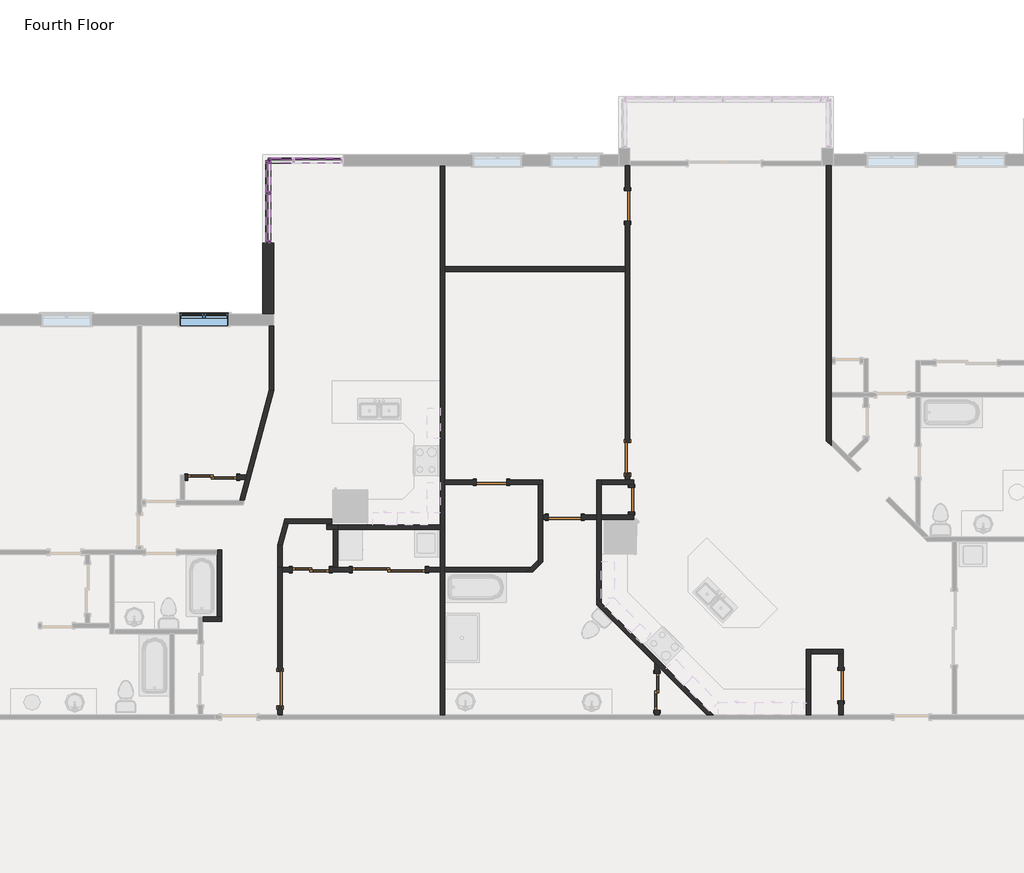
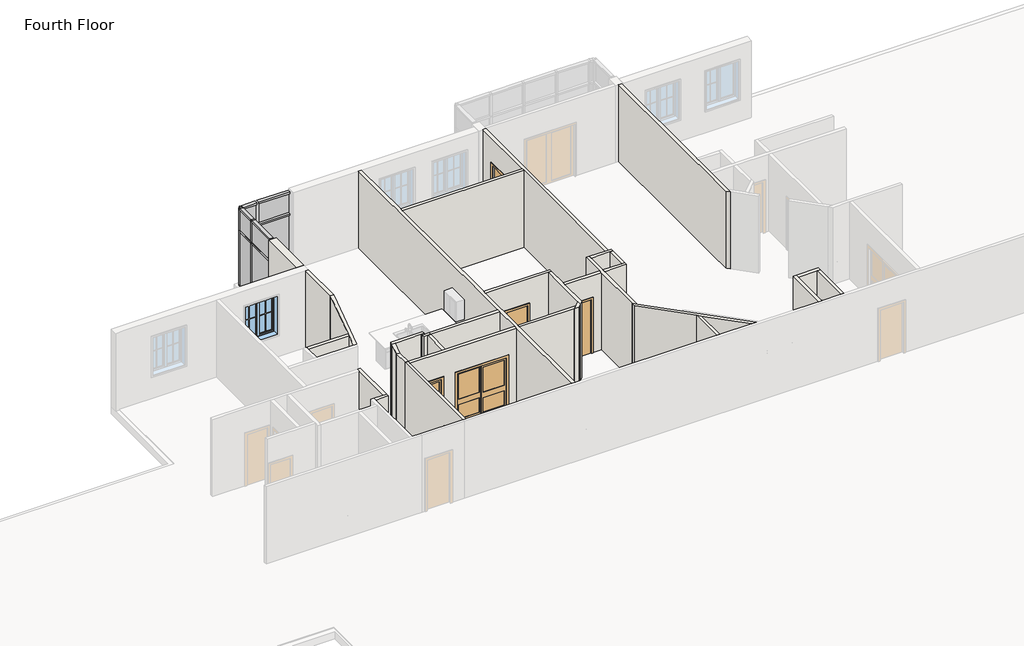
# One storey, part 9 of 17: 32 walls, 19 members, 11 doors, 8 plates, 1 window.
"""IFC4 building model written with IfcOpenShell, lengths in millimetres."""

from ifc_helpers import new_model, si_unit, frame, origin, place, context, project, spatial, polyline, outline, extrude, faceted_brep, transform, mapped, element, save
from components import door_e2285e44, door_d8f5dbb5, door_f2b275c1, door_d141acb4, door_c29894e6, door_88c23cd7, door_900f836f, door_caaf2a11, rectangular_mullion_rectangular_mullion_1_fa3625a1, rectangular_mullion_rectangular_mullion_1_7cbf0b94, rectangular_mullion_rectangular_mullion_1_a50b3cda, rectangular_mullion_rectangular_mullion_1_5cd4c5ac, rectangular_mullion_rectangular_mullion_1_6186cc23, rectangular_mullion_rectangular_mullion_1_049a2e78, rectangular_mullion_rectangular_mullion_1_13524bf9, rectangular_mullion_rectangular_mullion_1_a1888574, rectangular_mullion_rectangular_mullion_1_55d4f6ce, rectangular_mullion_rectangular_mullion_1_d8cc73e0, system_panel_glazed_0ed27d1d, system_panel_glazed_134bacdb, system_panel_glazed_53e6f9fb, system_panel_glazed_cb820e14, system_panel_glazed_7c98c5cb, system_panel_glazed_dc3c0d95, system_panel_glazed_bae44e10, system_panel_glazed_9feb64c3, window_33528cc2

model = new_model("IFC4")

# Units and contexts
model_context = context("Model", 3, world=origin())
ifc_project = project(units=[si_unit("LENGTHUNIT", "METRE", prefix="MILLI")], contexts=[model_context])

# Site, building, storey
site = spatial("IfcSite", under=ifc_project)
building = spatial("IfcBuilding", under=site)
storey = spatial("IfcBuildingStorey", under=building, Name="Fourth Floor", Elevation=9144.0)

# Doors
placement = place(None, origin())
door_shape = door_e2285e44(model_context)
element("IfcDoor", 1, ObjectType="Single-Flush : 24\" x 80\"", at=placement, inside=storey, context=model_context, shape_type="MappedRepresentation", body=[
    mapped(door_shape, transform((26745.480585, 7734.3572102, 9144.0), x_axis=(0.0, 1.0, 0.0), y_axis=(-1.0, 0.0, 0.0), z_axis=(0.0, 0.0, 1.0))),
])
door_2_shape = door_d8f5dbb5(model_context)
element("IfcDoor", 2, ObjectType="Single-Flush : 30\" x 80\"", at=placement, inside=storey, context=model_context, shape_type="MappedRepresentation", body=[
    mapped(door_2_shape, transform((23246.1202044, 8168.006996, 9144.0), x_axis=(-1.0, 0.0, 0.0), y_axis=(0.0, -1.0, 0.0), z_axis=(0.0, 0.0, 1.0))),
])
element("IfcDoor", 3, ObjectType="Single-Flush : 30\" x 80\"", at=placement, inside=storey, context=model_context, shape_type="MappedRepresentation", body=[
    mapped(door_2_shape, transform((31977.0076897, 3089.6091714, 9144.0), x_axis=(0.0, -1.0, 0.0), y_axis=(1.0, 0.0, 0.0), z_axis=(0.0, 0.0, 1.0))),
])
door_3_shape = door_f2b275c1(model_context)
element("IfcDoor", 4, ObjectType="Single-Flush : 30\" x 80\"", at=placement, inside=storey, context=model_context, shape_type="MappedRepresentation", body=[
    mapped(door_3_shape, transform((26645.8573571, 8777.606996, 9144.0), x_axis=(0.0, -1.0, 0.0), y_axis=(1.0, 0.0, 0.0), z_axis=(0.0, 0.0, 1.0))),
])
element("IfcDoor", 5, ObjectType="Single-Flush : 30\" x 80\"", at=placement, inside=storey, context=model_context, shape_type="MappedRepresentation", body=[
    mapped(door_3_shape, transform((26645.8573571, 15067.4365339, 9144.0), x_axis=(0.0, 1.0, 0.0), y_axis=(-1.0, 0.0, 0.0), z_axis=(0.0, 0.0, 1.0))),
])
door_4_shape = door_d141acb4(model_context)
element("IfcDoor", 6, ObjectType="Single-Flush : 32\" x 84\"", at=placement, inside=storey, context=model_context, shape_type="MappedRepresentation", body=[
    mapped(door_4_shape, transform((25078.7830518, 7300.7074244, 9144.0), x_axis=(-1.0, 0.0, 0.0), y_axis=(0.0, -1.0, 0.0), z_axis=(0.0, 0.0, 1.0))),
])
door_5_shape = door_c29894e6(model_context)
element("IfcDoor", 7, ObjectType="Single-Flush : 34\" x 80\"", at=placement, inside=storey, context=model_context, shape_type="MappedRepresentation", body=[
    mapped(door_5_shape, transform((17970.6993195, 3013.4091714, 9144.0), x_axis=(0.0, -1.0, 0.0), y_axis=(1.0, 0.0, 0.0), z_axis=(0.0, 0.0, 1.0))),
])
door_6_shape = door_88c23cd7(model_context)
element("IfcDoor", 8, ObjectType="Sliding-Closet : 36\" x 80\"", at=placement, inside=storey, context=model_context, shape_type="MappedRepresentation", body=[
    mapped(door_6_shape, transform((18737.6267988, 6113.0380642, 9144.0), x_axis=(-1.0, 0.0, 0.0), y_axis=(0.0, -1.0, 0.0), z_axis=(0.0, 0.0, 1.0))),
])
element("IfcDoor", 9, ObjectType="Sliding-Closet : 36\" x 80\"", at=placement, inside=storey, context=model_context, shape_type="MappedRepresentation", body=[
    mapped(door_6_shape, transform((27511.15388, 2937.2091714, 9144.0), x_axis=(0.0, 1.0, 0.0), y_axis=(-1.0, 0.0, 0.0), z_axis=(0.0, 0.0, 1.0))),
])
door_7_shape = door_900f836f(model_context)
element("IfcDoor", 10, ObjectType="Sliding-Closet : 48\" x 80\"", at=placement, inside=storey, context=model_context, shape_type="MappedRepresentation", body=[
    mapped(door_7_shape, transform((16278.4083594, 8170.5576127, 9144.0), x_axis=(1.0, 0.0, 0.0), y_axis=(0.0, 1.0, 0.0), z_axis=(0.0, 0.0, 1.0))),
])
door_8_shape = door_caaf2a11(model_context)
element("IfcDoor", 11, ObjectType="Sliding-Closet : 72\" x 80\"", at=placement, inside=storey, context=model_context, shape_type="MappedRepresentation", body=[
    mapped(door_8_shape, transform((20687.6058176, 6113.0380642, 9144.0), x_axis=(-1.0, 0.0, 0.0), y_axis=(0.0, -1.0, 0.0), z_axis=(0.0, 0.0, 1.0))),
])

# Members
rectangular_mullion_rectangular_mullion_1_shape = rectangular_mullion_rectangular_mullion_1_fa3625a1(model_context)
element("IfcMember", 12, ObjectType="Rectangular Mullion : Rectangular Mullion 1", at=placement, inside=storey, context=model_context, shape_type="MappedRepresentation", body=[
    mapped(rectangular_mullion_rectangular_mullion_1_shape, transform((18332.1198568, 16206.4791823, 12192.0), x_axis=(0.0, 0.0, 1.0), y_axis=(0.0, 1.0, 0.0), z_axis=(-1.0, 0.0, 0.0))),
])
rectangular_mullion_rectangular_mullion_1_2_shape = rectangular_mullion_rectangular_mullion_1_7cbf0b94(model_context)
element("IfcMember", 13, ObjectType="Rectangular Mullion : Rectangular Mullion 1", at=placement, inside=storey, context=model_context, shape_type="MappedRepresentation", body=[
    mapped(rectangular_mullion_rectangular_mullion_1_2_shape, transform((18332.1198568, 16206.4791823, 11309.35), x_axis=(0.0, 0.0, 1.0), y_axis=(0.0, 1.0, 0.0), z_axis=(-1.0, 0.0, 0.0))),
])
rectangular_mullion_rectangular_mullion_1_3_shape = rectangular_mullion_rectangular_mullion_1_a50b3cda(model_context)
element("IfcMember", 14, ObjectType="Rectangular Mullion : Rectangular Mullion 1", at=placement, inside=storey, context=model_context, shape_type="MappedRepresentation", body=[
    mapped(rectangular_mullion_rectangular_mullion_1_3_shape, transform((17678.8246608, 16206.4791823, 9144.0), x_axis=(-1.0, 0.0, 0.0), y_axis=(0.0, 1.0, 0.0), z_axis=(0.0, 0.0, -1.0))),
])
rectangular_mullion_rectangular_mullion_1_4_shape = rectangular_mullion_rectangular_mullion_1_5cd4c5ac(model_context)
element("IfcMember", 15, ObjectType="Rectangular Mullion : Rectangular Mullion 1", at=placement, inside=storey, context=model_context, shape_type="MappedRepresentation", body=[
    mapped(rectangular_mullion_rectangular_mullion_1_4_shape, transform((17678.8246608, 16206.4791823, 11309.35), x_axis=(-1.0, 0.0, 0.0), y_axis=(0.0, 1.0, 0.0), z_axis=(0.0, 0.0, -1.0))),
])
element("IfcMember", 16, ObjectType="Rectangular Mullion : Rectangular Mullion 1", at=placement, inside=storey, context=model_context, shape_type="MappedRepresentation", body=[
    mapped(rectangular_mullion_rectangular_mullion_1_shape, transform((17678.8246608, 15365.3662252, 12192.0), x_axis=(0.0, 0.0, 1.0), y_axis=(1.0, 0.0, 0.0), z_axis=(0.0, 1.0, 0.0))),
])
element("IfcMember", 17, ObjectType="Rectangular Mullion : Rectangular Mullion 1", at=placement, inside=storey, context=model_context, shape_type="MappedRepresentation", body=[
    mapped(rectangular_mullion_rectangular_mullion_1_shape, transform((17678.8246608, 14209.6662249, 9144.0), x_axis=(0.0, 0.0, -1.0), y_axis=(1.0, 0.0, 0.0), z_axis=(0.0, -1.0, 0.0))),
])
element("IfcMember", 18, ObjectType="Rectangular Mullion : Rectangular Mullion 1", at=placement, inside=storey, context=model_context, shape_type="MappedRepresentation", body=[
    mapped(rectangular_mullion_rectangular_mullion_1_3_shape, transform((17678.8246608, 16206.4791823, 9144.0), x_axis=(0.0, 1.0, 0.0), y_axis=(1.0, 0.0, 0.0), z_axis=(0.0, 0.0, -1.0))),
])
element("IfcMember", 19, ObjectType="Rectangular Mullion : Rectangular Mullion 1", at=placement, inside=storey, context=model_context, shape_type="MappedRepresentation", body=[
    mapped(rectangular_mullion_rectangular_mullion_1_4_shape, transform((17678.8246608, 16206.4791823, 11309.35), x_axis=(0.0, 1.0, 0.0), y_axis=(1.0, 0.0, 0.0), z_axis=(0.0, 0.0, -1.0))),
])
element("IfcMember", 20, ObjectType="Rectangular Mullion : Rectangular Mullion 1", at=placement, inside=storey, context=model_context, shape_type="MappedRepresentation", body=[
    mapped(rectangular_mullion_rectangular_mullion_1_4_shape, transform((17678.8246608, 14146.1662249, 12192.0), x_axis=(0.0, -1.0, 0.0), y_axis=(1.0, 0.0, 0.0), z_axis=(0.0, 0.0, 1.0))),
])
element("IfcMember", 21, ObjectType="Rectangular Mullion : Rectangular Mullion 1", at=placement, inside=storey, context=model_context, shape_type="MappedRepresentation", body=[
    mapped(rectangular_mullion_rectangular_mullion_1_3_shape, transform((17678.8246608, 14146.1662249, 11309.35), x_axis=(0.0, -1.0, 0.0), y_axis=(1.0, 0.0, 0.0), z_axis=(0.0, 0.0, 1.0))),
])
element("IfcMember", 22, ObjectType="Rectangular Mullion : Rectangular Mullion 1", at=placement, inside=storey, context=model_context, shape_type="MappedRepresentation", body=[
    mapped(rectangular_mullion_rectangular_mullion_1_2_shape, transform((17678.8246608, 15365.3662252, 11309.35), x_axis=(0.0, 0.0, 1.0), y_axis=(1.0, 0.0, 0.0), z_axis=(0.0, 1.0, 0.0))),
])
rectangular_mullion_rectangular_mullion_1_5_shape = rectangular_mullion_rectangular_mullion_1_6186cc23(model_context)
element("IfcMember", 23, ObjectType="Rectangular Mullion : Rectangular Mullion 1", at=placement, inside=storey, context=model_context, shape_type="MappedRepresentation", body=[
    mapped(rectangular_mullion_rectangular_mullion_1_5_shape, transform((17678.8246608, 15397.1162252, 9144.0), x_axis=(0.0, 1.0, 0.0), y_axis=(1.0, 0.0, 0.0), z_axis=(0.0, 0.0, -1.0))),
])
rectangular_mullion_rectangular_mullion_1_6_shape = rectangular_mullion_rectangular_mullion_1_049a2e78(model_context)
element("IfcMember", 24, ObjectType="Rectangular Mullion : Rectangular Mullion 1", at=placement, inside=storey, context=model_context, shape_type="MappedRepresentation", body=[
    mapped(rectangular_mullion_rectangular_mullion_1_6_shape, transform((17678.8246608, 15397.1162252, 11309.35), x_axis=(0.0, 1.0, 0.0), y_axis=(1.0, 0.0, 0.0), z_axis=(0.0, 0.0, -1.0))),
])
rectangular_mullion_rectangular_mullion_1_7_shape = rectangular_mullion_rectangular_mullion_1_13524bf9(model_context)
element("IfcMember", 25, ObjectType="Rectangular Mullion : Rectangular Mullion 1", at=placement, inside=storey, context=model_context, shape_type="MappedRepresentation", body=[
    mapped(rectangular_mullion_rectangular_mullion_1_7_shape, transform((17678.8246608, 16142.9791823, 12192.0), x_axis=(0.0, 0.0, 1.0), y_axis=(1.0, 0.0, 0.0), z_axis=(0.0, 1.0, 0.0))),
])
element("IfcMember", 26, ObjectType="Rectangular Mullion : Rectangular Mullion 1", at=placement, inside=storey, context=model_context, shape_type="MappedRepresentation", body=[
    mapped(rectangular_mullion_rectangular_mullion_1_7_shape, transform((17678.8246608, 15428.8662252, 9144.0), x_axis=(0.0, 0.0, -1.0), y_axis=(1.0, 0.0, 0.0), z_axis=(0.0, -1.0, 0.0))),
])
rectangular_mullion_rectangular_mullion_1_8_shape = rectangular_mullion_rectangular_mullion_1_a1888574(model_context)
element("IfcMember", 27, ObjectType="Rectangular Mullion : Rectangular Mullion 1", at=placement, inside=storey, context=model_context, shape_type="MappedRepresentation", body=[
    mapped(rectangular_mullion_rectangular_mullion_1_8_shape, transform((17678.8246608, 16142.9791823, 11309.35), x_axis=(0.0, 0.0, 1.0), y_axis=(1.0, 0.0, 0.0), z_axis=(0.0, 1.0, 0.0))),
])
rectangular_mullion_rectangular_mullion_1_9_shape = rectangular_mullion_rectangular_mullion_1_55d4f6ce(model_context)
element("IfcMember", 28, ObjectType="Rectangular Mullion : Rectangular Mullion 1", at=placement, inside=storey, context=model_context, shape_type="MappedRepresentation", body=[
    mapped(rectangular_mullion_rectangular_mullion_1_9_shape, transform((17742.3246608, 16206.4791823, 12192.0), x_axis=(0.0, 0.0, 1.0), y_axis=(0.0, 1.0, 0.0), z_axis=(-1.0, 0.0, 0.0))),
])
element("IfcMember", 29, ObjectType="Rectangular Mullion : Rectangular Mullion 1", at=placement, inside=storey, context=model_context, shape_type="MappedRepresentation", body=[
    mapped(rectangular_mullion_rectangular_mullion_1_9_shape, transform((18268.6198568, 16206.4791823, 9144.0), x_axis=(0.0, 0.0, -1.0), y_axis=(0.0, 1.0, 0.0), z_axis=(1.0, 0.0, 0.0))),
])
rectangular_mullion_rectangular_mullion_1_10_shape = rectangular_mullion_rectangular_mullion_1_d8cc73e0(model_context)
element("IfcMember", 30, ObjectType="Rectangular Mullion : Rectangular Mullion 1", at=placement, inside=storey, context=model_context, shape_type="MappedRepresentation", body=[
    mapped(rectangular_mullion_rectangular_mullion_1_10_shape, transform((17742.3246608, 16206.4791823, 11309.35), x_axis=(0.0, 0.0, 1.0), y_axis=(0.0, 1.0, 0.0), z_axis=(-1.0, 0.0, 0.0))),
])

# Plates
system_panel_glazed_shape = system_panel_glazed_0ed27d1d(model_context)
element("IfcPlate", 31, ObjectType="System Panel : Glazed", at=placement, inside=storey, context=model_context, shape_type="MappedRepresentation", body=[
    mapped(system_panel_glazed_shape, transform((18909.969857, 16206.4791823, 9207.5), x_axis=(-1.0, 0.0, 0.0), y_axis=(0.0, -1.0, 0.0), z_axis=(0.0, 0.0, 1.0))),
])
system_panel_glazed_2_shape = system_panel_glazed_134bacdb(model_context)
element("IfcPlate", 32, ObjectType="System Panel : Glazed", at=placement, inside=storey, context=model_context, shape_type="MappedRepresentation", body=[
    mapped(system_panel_glazed_2_shape, transform((18909.969857, 16206.4791823, 11341.1), x_axis=(-1.0, 0.0, 0.0), y_axis=(0.0, -1.0, 0.0), z_axis=(0.0, 0.0, 1.0))),
])
system_panel_glazed_3_shape = system_panel_glazed_53e6f9fb(model_context)
element("IfcPlate", 33, ObjectType="System Panel : Glazed", at=placement, inside=storey, context=model_context, shape_type="MappedRepresentation", body=[
    mapped(system_panel_glazed_3_shape, transform((17678.8246608, 14787.5162251, 9207.5), x_axis=(0.0, 1.0, 0.0), y_axis=(-1.0, 0.0, 0.0), z_axis=(0.0, 0.0, 1.0))),
])
system_panel_glazed_4_shape = system_panel_glazed_cb820e14(model_context)
element("IfcPlate", 34, ObjectType="System Panel : Glazed", at=placement, inside=storey, context=model_context, shape_type="MappedRepresentation", body=[
    mapped(system_panel_glazed_4_shape, transform((17678.8246608, 14787.5162251, 11341.1), x_axis=(0.0, 1.0, 0.0), y_axis=(-1.0, 0.0, 0.0), z_axis=(0.0, 0.0, 1.0))),
])
system_panel_glazed_5_shape = system_panel_glazed_7c98c5cb(model_context)
element("IfcPlate", 35, ObjectType="System Panel : Glazed", at=placement, inside=storey, context=model_context, shape_type="MappedRepresentation", body=[
    mapped(system_panel_glazed_5_shape, transform((17678.8246608, 15785.9227038, 9207.5), x_axis=(0.0, 1.0, 0.0), y_axis=(-1.0, 0.0, 0.0), z_axis=(0.0, 0.0, 1.0))),
])
system_panel_glazed_6_shape = system_panel_glazed_dc3c0d95(model_context)
element("IfcPlate", 36, ObjectType="System Panel : Glazed", at=placement, inside=storey, context=model_context, shape_type="MappedRepresentation", body=[
    mapped(system_panel_glazed_6_shape, transform((17678.8246608, 15785.9227038, 11341.1), x_axis=(0.0, 1.0, 0.0), y_axis=(-1.0, 0.0, 0.0), z_axis=(0.0, 0.0, 1.0))),
])
system_panel_glazed_7_shape = system_panel_glazed_bae44e10(model_context)
element("IfcPlate", 37, ObjectType="System Panel : Glazed", at=placement, inside=storey, context=model_context, shape_type="MappedRepresentation", body=[
    mapped(system_panel_glazed_7_shape, transform((18005.4722588, 16206.4791823, 9207.5), x_axis=(-1.0, 0.0, 0.0), y_axis=(0.0, -1.0, 0.0), z_axis=(0.0, 0.0, 1.0))),
])
system_panel_glazed_8_shape = system_panel_glazed_9feb64c3(model_context)
element("IfcPlate", 38, ObjectType="System Panel : Glazed", at=placement, inside=storey, context=model_context, shape_type="MappedRepresentation", body=[
    mapped(system_panel_glazed_8_shape, transform((18005.4722588, 16206.4791823, 11341.1), x_axis=(-1.0, 0.0, 0.0), y_axis=(0.0, -1.0, 0.0), z_axis=(0.0, 0.0, 1.0))),
])

# Walls
element("IfcWall", 39, ObjectType="Exterior - Brick on Wood Stud", at=placement, inside=storey, context=model_context, shape_type="SweptSolid", body=[
    extrude(outline(polyline([(17537.5371608, 12370.2302849), (17537.5371608, 14146.1662249), (17820.1121608, 14146.1662249), (17820.1121608, 12370.2302849), (17537.5371608, 12370.2302849)])), frame((0.0, 0.0, 9144.0), z_axis=(0.0, 0.0, 1.0), x_axis=(1.0, 0.0, 0.0)), (0.0, 0.0, 1.0), 3048.0),
])
element("IfcWall", 40, ObjectType="Interior - 4 1/2\" Partition", at=placement, inside=storey, context=model_context, shape_type="Brep", body=[
    faceted_brep([(22080.2073571, 2359.3591714, 9144.0), (22080.2073571, 5928.8880642, 9144.0), (22080.2073571, 6043.1880642, 9144.0), (22080.2073571, 8110.856996, 9144.0), (22080.2073571, 8225.156996, 9144.0), (22080.2073571, 13435.7238431, 9144.0), (22080.2073571, 13550.0238431, 9144.0), (22080.2073571, 16065.1916823, 9144.0), (22080.2073571, 16065.1916823, 12192.0), (22080.2073571, 13550.0238431, 12192.0), (22080.2073571, 13435.7238431, 12192.0), (22080.2073571, 8225.156996, 12192.0), (22080.2073571, 8110.856996, 12192.0), (22080.2073571, 6043.1880642, 12192.0), (22080.2073571, 5928.8880642, 12192.0), (22080.2073571, 2359.3591714, 12192.0), (21965.9073571, 2359.3591714, 9144.0), (21965.9073571, 2359.3591714, 12192.0), (21965.9073571, 5928.8880642, 12192.0), (21965.9073571, 6043.1880642, 12192.0), (21965.9073571, 6988.905075, 12192.0), (21965.9073571, 7103.205075, 12192.0), (21965.9073571, 16065.1916823, 12192.0), (21965.9073571, 16065.1916823, 9144.0), (21965.9073571, 7103.205075, 9144.0), (21965.9073571, 6988.905075, 9144.0), (21965.9073571, 6043.1880642, 9144.0), (21965.9073571, 5928.8880642, 9144.0)], [[[0, 1, 2, 3, 4, 5, 6, 7, 8, 9, 10, 11, 12, 13, 14, 15]], [[16, 17, 18, 19, 20, 21, 22, 23, 24, 25, 26, 27]], [[7, 6, 5, 4, 3, 2, 1, 0, 16, 27, 26, 25, 24, 23]], [[15, 14, 13, 12, 11, 10, 9, 8, 22, 21, 20, 19, 18, 17]], [[0, 15, 17, 16]], [[8, 7, 23, 22]]]),
])
element("IfcWall", 41, ObjectType="Interior - 4 1/2\" Partition", at=placement, inside=storey, context=model_context, shape_type="Brep", body=[
    faceted_brep([(31724.597822, 9089.3944324, 9144.0), (31724.597822, 9251.0390425, 9144.0), (31724.597822, 10300.8410099, 9144.0), (31724.597822, 10415.1410099, 9144.0), (31724.597822, 11149.7238431, 9144.0), (31724.597822, 11264.0238431, 9144.0), (31724.597822, 16077.0865339, 9144.0), (31724.597822, 16077.0865339, 12192.0), (31724.597822, 11264.0238431, 12192.0), (31724.597822, 11149.7238431, 12192.0), (31724.597822, 10415.1410099, 12192.0), (31724.597822, 10300.8410099, 12192.0), (31724.597822, 9251.0390425, 12192.0), (31724.597822, 9089.3944324, 12192.0), (31610.297822, 9203.6944324, 9144.0), (31610.297822, 9203.6944324, 12192.0), (31610.297822, 16077.0865339, 12192.0), (31610.297822, 16077.0865339, 9144.0)], [[[0, 1, 2, 3, 4, 5, 6, 7, 8, 9, 10, 11, 12, 13]], [[14, 15, 16, 17]], [[6, 5, 4, 3, 2, 1, 0, 14, 17]], [[13, 12, 11, 10, 9, 8, 7, 16, 15]], [[0, 13, 15, 14]], [[7, 6, 17, 16]]]),
])
element("IfcWall", 42, ObjectType="Interior - 4 1/2\" Partition", at=placement, inside=storey, context=model_context, shape_type="SweptSolid", body=[
    extrude(outline(polyline([(26588.7073571, 13435.7238431), (22080.2073571, 13435.7238431), (22080.2073571, 13550.0238431), (26588.7073571, 13550.0238431), (26588.7073571, 13435.7238431)])), frame((0.0, 0.0, 9144.0), z_axis=(0.0, 0.0, 1.0), x_axis=(1.0, 0.0, 0.0)), (0.0, 0.0, 1.0), 3048.0),
])
element("IfcWall", 43, ObjectType="Interior - 4 1/2\" Partition", at=placement, inside=storey, context=model_context, shape_type="Brep", body=[
    faceted_brep([(26703.0073571, 15448.4365339, 11176.0), (26703.0073571, 15448.4365339, 9144.0), (26703.0073571, 16077.0865339, 9144.0), (26703.0073571, 16077.0865339, 12192.0), (26703.0073571, 8225.156996, 12192.0), (26703.0073571, 8225.156996, 9144.0), (26703.0073571, 8396.606996, 9144.0), (26703.0073571, 8396.606996, 11176.0), (26703.0073571, 9158.606996, 11176.0), (26703.0073571, 9158.606996, 9144.0), (26703.0073571, 14686.4365339, 9144.0), (26703.0073571, 14686.4365339, 11176.0), (26588.7073571, 16077.0865339, 9144.0), (26588.7073571, 15448.4365339, 9144.0), (26588.7073571, 15448.4365339, 11176.0), (26588.7073571, 14686.4365339, 11176.0), (26588.7073571, 14686.4365339, 9144.0), (26588.7073571, 13550.0238431, 9144.0), (26588.7073571, 13435.7238431, 9144.0), (26588.7073571, 9158.606996, 9144.0), (26588.7073571, 9158.606996, 11176.0), (26588.7073571, 8396.606996, 11176.0), (26588.7073571, 8396.606996, 9144.0), (26588.7073571, 8225.156996, 9144.0), (26588.7073571, 8225.156996, 12192.0), (26588.7073571, 13435.7238431, 12192.0), (26588.7073571, 13550.0238431, 12192.0), (26588.7073571, 16077.0865339, 12192.0)], [[[0, 1, 2, 3, 4, 5, 6, 7, 8, 9, 10, 11]], [[12, 13, 14, 15, 16, 17, 18, 19, 20, 21, 22, 23, 24, 25, 26, 27]], [[23, 22, 6, 5]], [[10, 9, 19, 18, 17, 16]], [[2, 1, 13, 12]], [[4, 3, 27, 26, 25, 24]], [[7, 6, 22, 21]], [[8, 7, 21, 20]], [[9, 8, 20, 19]], [[14, 13, 1, 0]], [[15, 14, 0, 11]], [[16, 15, 11, 10]], [[5, 4, 24, 23]], [[3, 2, 12, 27]]]),
])
element("IfcWall", 44, ObjectType="Interior - 4 1/2\" Partition", at=placement, inside=storey, context=model_context, shape_type="Brep", body=[
    faceted_brep([(25879.20388, 5101.9499009, 9144.0), (27327.00388, 3654.1499009, 9144.0), (27441.30388, 3539.8499009, 9144.0), (28621.7946095, 2359.3591714, 9144.0), (28621.7946095, 2359.3591714, 12192.0), (27441.30388, 3539.8499009, 12192.0), (27327.00388, 3654.1499009, 12192.0), (25879.20388, 5101.9499009, 12192.0), (25879.20388, 5263.5945111, 9144.0), (25879.20388, 5263.5945111, 12192.0), (25993.50388, 5149.2945111, 12192.0), (28783.4392197, 2359.3591714, 12192.0), (28783.4392197, 2359.3591714, 9144.0), (25993.50388, 5149.2945111, 9144.0)], [[[0, 1, 2, 3, 4, 5, 6, 7]], [[8, 9, 10, 11, 12, 13]], [[3, 2, 1, 0, 8, 13, 12]], [[7, 6, 5, 4, 11, 10, 9]], [[0, 7, 9, 8]], [[4, 3, 12, 11]]]),
])
element("IfcWall", 45, ObjectType="Interior - 4 1/2\" Partition", at=placement, inside=storey, context=model_context, shape_type="Brep", body=[
    faceted_brep([(25879.20388, 8225.156996, 9144.0), (25879.20388, 7357.8574244, 9144.0), (25879.20388, 7243.5574244, 9144.0), (25879.20388, 5263.5945111, 9144.0), (25879.20388, 5263.5945111, 12192.0), (25879.20388, 7243.5574244, 12192.0), (25879.20388, 7357.8574244, 12192.0), (25879.20388, 8225.156996, 12192.0), (25993.50388, 8225.156996, 9144.0), (25993.50388, 8225.156996, 12192.0), (25993.50388, 8110.856996, 12192.0), (25993.50388, 7357.8574244, 12192.0), (25993.50388, 7243.5574244, 12192.0), (25993.50388, 5149.2945111, 12192.0), (25993.50388, 5149.2945111, 9144.0), (25993.50388, 7243.5574244, 9144.0), (25993.50388, 7357.8574244, 9144.0), (25993.50388, 8110.856996, 9144.0)], [[[0, 1, 2, 3, 4, 5, 6, 7]], [[8, 9, 10, 11, 12, 13, 14, 15, 16, 17]], [[3, 2, 1, 0, 8, 17, 16, 15, 14]], [[7, 6, 5, 4, 13, 12, 11, 10, 9]], [[0, 7, 9, 8]], [[4, 3, 14, 13]]]),
])
element("IfcWall", 46, ObjectType="Interior - 4 1/2\" Partition", at=placement, inside=storey, context=model_context, shape_type="Brep", body=[
    faceted_brep([(26802.630585, 8225.156996, 9144.0), (26703.0073571, 8225.156996, 9144.0), (26588.7073571, 8225.156996, 9144.0), (25993.50388, 8225.156996, 9144.0), (25993.50388, 8225.156996, 12192.0), (26588.7073571, 8225.156996, 12192.0), (26703.0073571, 8225.156996, 12192.0), (26802.630585, 8225.156996, 12192.0), (26802.630585, 8110.856996, 9144.0), (26802.630585, 8110.856996, 12192.0), (26688.330585, 8110.856996, 12192.0), (25993.50388, 8110.856996, 12192.0), (25993.50388, 8110.856996, 9144.0), (26688.330585, 8110.856996, 9144.0)], [[[0, 1, 2, 3, 4, 5, 6, 7]], [[8, 9, 10, 11, 12, 13]], [[3, 2, 1, 0, 8, 13, 12]], [[7, 6, 5, 4, 11, 10, 9]], [[0, 7, 9, 8]], [[4, 3, 12, 11]]]),
])
element("IfcWall", 47, ObjectType="Interior - 4 1/2\" Partition", at=placement, inside=storey, context=model_context, shape_type="Brep", body=[
    faceted_brep([(24672.3830518, 7243.5574244, 9144.0), (24672.3830518, 7243.5574244, 11277.6), (25485.1830518, 7243.5574244, 11277.6), (25485.1830518, 7243.5574244, 9144.0), (25879.20388, 7243.5574244, 9144.0), (25879.20388, 7243.5574244, 12192.0), (24526.3330518, 7243.5574244, 12192.0), (24526.3330518, 7243.5574244, 9144.0), (24672.3830518, 7357.8574244, 11277.6), (24672.3830518, 7357.8574244, 9144.0), (24526.3330518, 7357.8574244, 9144.0), (24526.3330518, 7357.8574244, 12192.0), (25879.20388, 7357.8574244, 12192.0), (25879.20388, 7357.8574244, 9144.0), (25485.1830518, 7357.8574244, 9144.0), (25485.1830518, 7357.8574244, 11277.6)], [[[0, 1, 2, 3, 4, 5, 6, 7]], [[8, 9, 10, 11, 12, 13, 14, 15]], [[9, 0, 7, 10]], [[3, 14, 13, 4]], [[11, 6, 5, 12]], [[1, 0, 9, 8]], [[2, 1, 8, 15]], [[3, 2, 15, 14]], [[7, 6, 11, 10]], [[5, 4, 13, 12]]]),
    faceted_brep([(26802.630585, 7243.5574244, 9144.0), (26802.630585, 7243.5574244, 12192.0), (25993.50388, 7243.5574244, 12192.0), (25993.50388, 7243.5574244, 9144.0), (26802.630585, 7357.8574244, 12192.0), (26802.630585, 7357.8574244, 9144.0), (26688.330585, 7357.8574244, 9144.0), (25993.50388, 7357.8574244, 9144.0), (25993.50388, 7357.8574244, 12192.0), (26688.330585, 7357.8574244, 12192.0)], [[[0, 1, 2, 3]], [[4, 5, 6, 7, 8, 9]], [[5, 0, 3, 7, 6]], [[1, 4, 9, 8, 2]], [[1, 0, 5, 4]], [[3, 2, 8, 7]]]),
])
element("IfcWall", 48, ObjectType="Interior - 4 1/2\" Partition", at=placement, inside=storey, context=model_context, shape_type="SweptSolid", body=[
    extrude(outline(polyline([(8110.856996, 9144.0), (8039.1572102, 9144.0), (8039.1572102, 11176.0), (7429.5572102, 11176.0), (7429.5572102, 9144.0), (7357.8574244, 9144.0), (7357.8574244, 12192.0), (8110.856996, 12192.0), (8110.856996, 9144.0)])), frame((26688.330585, 0.0, 0.0), z_axis=(1.0, 0.0, 0.0), x_axis=(0.0, 1.0, 0.0)), (0.0, 0.0, 1.0), 114.3),
])
element("IfcWall", 49, ObjectType="Interior - 4 1/2\" Partition", at=placement, inside=storey, context=model_context, shape_type="Brep", body=[
    faceted_brep([(22080.2073571, 8110.856996, 9144.0), (22865.1202044, 8110.856996, 9144.0), (22865.1202044, 8110.856996, 11176.0), (23627.1202044, 8110.856996, 11176.0), (23627.1202044, 8110.856996, 9144.0), (24412.0330518, 8110.856996, 9144.0), (24526.3330518, 8110.856996, 9144.0), (24526.3330518, 8110.856996, 12192.0), (24412.0330518, 8110.856996, 12192.0), (22080.2073571, 8110.856996, 12192.0), (22865.1202044, 8225.156996, 11176.0), (22865.1202044, 8225.156996, 9144.0), (22080.2073571, 8225.156996, 9144.0), (22080.2073571, 8225.156996, 12192.0), (24526.3330518, 8225.156996, 12192.0), (24526.3330518, 8225.156996, 9144.0), (23627.1202044, 8225.156996, 9144.0), (23627.1202044, 8225.156996, 11176.0)], [[[0, 1, 2, 3, 4, 5, 6, 7, 8, 9]], [[10, 11, 12, 13, 14, 15, 16, 17]], [[16, 15, 6, 5, 4]], [[12, 11, 1, 0]], [[9, 8, 7, 14, 13]], [[2, 1, 11, 10]], [[3, 2, 10, 17]], [[4, 3, 17, 16]], [[7, 6, 15, 14]], [[0, 9, 13, 12]]]),
])
element("IfcWall", 50, ObjectType="Interior - 4 1/2\" Partition", at=placement, inside=storey, context=model_context, shape_type="Brep", body=[
    faceted_brep([(24412.0330518, 8110.856996, 9144.0), (24412.0330518, 6225.2365161, 9144.0), (24412.0330518, 6063.591906, 9144.0), (24412.0330518, 6063.591906, 12192.0), (24412.0330518, 6225.2365161, 12192.0), (24412.0330518, 8110.856996, 12192.0), (24526.3330518, 8110.856996, 9144.0), (24526.3330518, 8110.856996, 12192.0), (24526.3330518, 7357.8574244, 12192.0), (24526.3330518, 7243.5574244, 12192.0), (24526.3330518, 6177.891906, 12192.0), (24526.3330518, 6177.891906, 9144.0), (24526.3330518, 7243.5574244, 9144.0), (24526.3330518, 7357.8574244, 9144.0)], [[[0, 1, 2, 3, 4, 5]], [[6, 7, 8, 9, 10, 11, 12, 13]], [[2, 1, 0, 6, 13, 12, 11]], [[5, 4, 3, 10, 9, 8, 7]], [[3, 2, 11, 10]], [[0, 5, 7, 6]]]),
])
element("IfcWall", 51, ObjectType="Interior - 4 1/2\" Partition", at=placement, inside=storey, context=model_context, shape_type="Brep", body=[
    faceted_brep([(24412.0330518, 6225.2365161, 9144.0), (24229.9845998, 6043.1880642, 9144.0), (24115.6845998, 5928.8880642, 9144.0), (24115.6845998, 5928.8880642, 12192.0), (24229.9845998, 6043.1880642, 12192.0), (24412.0330518, 6225.2365161, 12192.0), (24412.0330518, 6063.591906, 9144.0), (24412.0330518, 6063.591906, 12192.0), (24277.3292099, 5928.8880642, 12192.0), (24277.3292099, 5928.8880642, 9144.0)], [[[0, 1, 2, 3, 4, 5]], [[6, 7, 8, 9]], [[2, 1, 0, 6, 9]], [[5, 4, 3, 8, 7]], [[3, 2, 9, 8]], [[0, 5, 7, 6]]]),
])
element("IfcWall", 52, ObjectType="Interior - 4 1/2\" Partition", at=placement, inside=storey, context=model_context, shape_type="SweptSolid", body=[
    extrude(outline(polyline([(22080.2073571, 6043.1880642), (24229.9845998, 6043.1880642), (24115.6845998, 5928.8880642), (22080.2073571, 5928.8880642), (22080.2073571, 6043.1880642)])), frame((0.0, 0.0, 9144.0), z_axis=(0.0, 0.0, 1.0), x_axis=(1.0, 0.0, 0.0)), (0.0, 0.0, 1.0), 3048.0),
])
element("IfcWall", 53, ObjectType="Interior - 4 1/2\" Partition", at=placement, inside=storey, context=model_context, shape_type="Brep", body=[
    faceted_brep([(31221.3576897, 2359.3591714, 9144.0), (31221.3576897, 3878.5301459, 9144.0), (31221.3576897, 3992.8301459, 9144.0), (31221.3576897, 3992.8301459, 12192.0), (31221.3576897, 3878.5301459, 12192.0), (31221.3576897, 2359.3591714, 12192.0), (31107.0576897, 2359.3591714, 9144.0), (31107.0576897, 2359.3591714, 12192.0), (31107.0576897, 3992.8301459, 12192.0), (31107.0576897, 3992.8301459, 9144.0)], [[[0, 1, 2, 3, 4, 5]], [[6, 7, 8, 9]], [[2, 1, 0, 6, 9]], [[5, 4, 3, 8, 7]], [[3, 2, 9, 8]], [[0, 5, 7, 6]]]),
])
element("IfcWall", 54, ObjectType="Interior - 4 1/2\" Partition", at=placement, inside=storey, context=model_context, shape_type="Brep", body=[
    faceted_brep([(31221.3576897, 3878.5301459, 9144.0), (31919.8576897, 3878.5301459, 9144.0), (32034.1576897, 3878.5301459, 9144.0), (32034.1576897, 3878.5301459, 12192.0), (31919.8576897, 3878.5301459, 12192.0), (31221.3576897, 3878.5301459, 12192.0), (31221.3576897, 3992.8301459, 9144.0), (31221.3576897, 3992.8301459, 12192.0), (32034.1576897, 3992.8301459, 12192.0), (32034.1576897, 3992.8301459, 9144.0)], [[[0, 1, 2, 3, 4, 5]], [[6, 7, 8, 9]], [[2, 1, 0, 6, 9]], [[5, 4, 3, 8, 7]], [[3, 2, 9, 8]], [[0, 5, 7, 6]]]),
])
element("IfcWall", 55, ObjectType="Interior - 4 1/2\" Partition", at=placement, inside=storey, context=model_context, shape_type="SweptSolid", body=[
    extrude(outline(polyline([(2708.6091714, 11176.0), (2708.6091714, 9144.0), (2359.3591714, 9144.0), (2359.3591714, 12192.0), (3878.5301459, 12192.0), (3878.5301459, 9144.0), (3470.6091714, 9144.0), (3470.6091714, 11176.0), (2708.6091714, 11176.0)])), frame((31919.8576897, 0.0, 0.0), z_axis=(1.0, 0.0, 0.0), x_axis=(0.0, 1.0, 0.0)), (0.0, 0.0, 1.0), 114.3),
])
element("IfcWall", 56, ObjectType="Interior - 4 1/2\" Partition", at=placement, inside=storey, context=model_context, shape_type="Brep", body=[
    faceted_brep([(18027.8493195, 2359.3591714, 9144.0), (18027.8493195, 2581.6091714, 9144.0), (18027.8493195, 2581.6091714, 11176.0), (18027.8493195, 3445.2091714, 11176.0), (18027.8493195, 3445.2091714, 9144.0), (18027.8493195, 5928.8880642, 9144.0), (18027.8493195, 6043.1880642, 9144.0), (18027.8493195, 6043.1880642, 12192.0), (18027.8493195, 5928.8880642, 12192.0), (18027.8493195, 2359.3591714, 12192.0), (17913.5493195, 2581.6091714, 11176.0), (17913.5493195, 2581.6091714, 9144.0), (17913.5493195, 2359.3591714, 9144.0), (17913.5493195, 2359.3591714, 12192.0), (17913.5493195, 6043.1880642, 12192.0), (17913.5493195, 6043.1880642, 9144.0), (17913.5493195, 3445.2091714, 9144.0), (17913.5493195, 3445.2091714, 11176.0)], [[[0, 1, 2, 3, 4, 5, 6, 7, 8, 9]], [[10, 11, 12, 13, 14, 15, 16, 17]], [[16, 15, 6, 5, 4]], [[12, 11, 1, 0]], [[9, 8, 7, 14, 13]], [[2, 1, 11, 10]], [[3, 2, 10, 17]], [[4, 3, 17, 16]], [[7, 6, 15, 14]], [[0, 9, 13, 12]]]),
])
element("IfcWall", 57, ObjectType="Interior - 4 1/2\" Partition", at=placement, inside=storey, context=model_context, shape_type="Brep", body=[
    faceted_brep([(18027.8493195, 5928.8880642, 9144.0), (18280.4267988, 5928.8880642, 9144.0), (18280.4267988, 5928.8880642, 11176.0), (19194.8267988, 5928.8880642, 11176.0), (19194.8267988, 5928.8880642, 9144.0), (19773.2058176, 5928.8880642, 9144.0), (19773.2058176, 5928.8880642, 11176.0), (21602.0058176, 5928.8880642, 11176.0), (21602.0058176, 5928.8880642, 9144.0), (21965.9073571, 5928.8880642, 9144.0), (21965.9073571, 5928.8880642, 12192.0), (18027.8493195, 5928.8880642, 12192.0), (18280.4267988, 6043.1880642, 11176.0), (18280.4267988, 6043.1880642, 9144.0), (18027.8493195, 6043.1880642, 9144.0), (18027.8493195, 6043.1880642, 12192.0), (19295.0042781, 6043.1880642, 12192.0), (19409.3042781, 6043.1880642, 12192.0), (21965.9073571, 6043.1880642, 12192.0), (21965.9073571, 6043.1880642, 9144.0), (21602.0058176, 6043.1880642, 9144.0), (21602.0058176, 6043.1880642, 11176.0), (19773.2058176, 6043.1880642, 11176.0), (19773.2058176, 6043.1880642, 9144.0), (19409.3042781, 6043.1880642, 9144.0), (19295.0042781, 6043.1880642, 9144.0), (19194.8267988, 6043.1880642, 9144.0), (19194.8267988, 6043.1880642, 11176.0)], [[[0, 1, 2, 3, 4, 5, 6, 7, 8, 9, 10, 11]], [[12, 13, 14, 15, 16, 17, 18, 19, 20, 21, 22, 23, 24, 25, 26, 27]], [[20, 19, 9, 8]], [[14, 13, 1, 0]], [[26, 25, 24, 23, 5, 4]], [[11, 10, 18, 17, 16, 15]], [[8, 7, 21, 20]], [[6, 5, 23, 22]], [[7, 6, 22, 21]], [[4, 3, 27, 26]], [[2, 1, 13, 12]], [[3, 2, 12, 27]], [[0, 11, 15, 14]], [[10, 9, 19, 18]]]),
])
element("IfcWall", 58, ObjectType="Interior - 4 1/2\" Partition", at=placement, inside=storey, context=model_context, shape_type="SweptSolid", body=[
    extrude(outline(polyline([(18027.8493195, 6586.3590874), (18027.8493195, 6043.1880642), (17913.5493195, 6043.1880642), (17913.5493195, 6601.4069679), (18027.8493195, 6586.3590874)])), frame((0.0, 0.0, 9144.0), z_axis=(0.0, 0.0, 1.0), x_axis=(1.0, 0.0, 0.0)), (0.0, 0.0, 1.0), 3048.0),
])
element("IfcWall", 59, ObjectType="Interior - 4 1/2\" Partition", at=placement, inside=storey, context=model_context, shape_type="Brep", body=[
    faceted_brep([(18059.0915565, 7144.5779911, 9144.0), (18177.4236239, 7144.5779911, 9144.0), (19142.6042781, 7144.5779911, 9144.0), (19256.9042781, 7144.5779911, 9144.0), (19256.9042781, 7144.5779911, 12192.0), (19142.6042781, 7144.5779911, 12192.0), (18177.4236239, 7144.5779911, 12192.0), (18059.0915565, 7144.5779911, 12192.0), (18089.7181492, 7258.8779911, 9144.0), (18089.7181492, 7258.8779911, 12192.0), (19256.9042781, 7258.8779911, 12192.0), (19256.9042781, 7258.8779911, 9144.0)], [[[0, 1, 2, 3, 4, 5, 6, 7]], [[8, 9, 10, 11]], [[3, 2, 1, 0, 8, 11]], [[7, 6, 5, 4, 10, 9]], [[0, 7, 9, 8]], [[4, 3, 11, 10]]]),
])
element("IfcWall", 60, ObjectType="Interior - 4 1/2\" Partition", at=placement, inside=storey, context=model_context, shape_type="SweptSolid", body=[
    extrude(outline(polyline([(19142.6042781, 7103.205075), (19142.6042781, 7144.5779911), (19256.9042781, 7144.5779911), (19256.9042781, 7103.205075), (19142.6042781, 7103.205075)])), frame((0.0, 0.0, 9144.0), z_axis=(0.0, 0.0, 1.0), x_axis=(1.0, 0.0, 0.0)), (0.0, 0.0, 1.0), 3048.0),
])
element("IfcWall", 61, ObjectType="Interior - 4 1/2\" Partition", at=placement, inside=storey, context=model_context, shape_type="Brep", body=[
    faceted_brep([(19142.6042781, 6988.905075, 9144.0), (19295.0042781, 6988.905075, 9144.0), (19409.3042781, 6988.905075, 9144.0), (19409.3042781, 6988.905075, 12192.0), (19295.0042781, 6988.905075, 12192.0), (19142.6042781, 6988.905075, 12192.0), (19142.6042781, 7103.205075, 9144.0), (19142.6042781, 7103.205075, 12192.0), (19256.9042781, 7103.205075, 12192.0), (19409.3042781, 7103.205075, 12192.0), (19409.3042781, 7103.205075, 9144.0), (19256.9042781, 7103.205075, 9144.0)], [[[0, 1, 2, 3, 4, 5]], [[6, 7, 8, 9, 10, 11]], [[2, 1, 0, 6, 11, 10]], [[5, 4, 3, 9, 8, 7]], [[3, 2, 10, 9]], [[0, 5, 7, 6]]]),
])
element("IfcWall", 62, ObjectType="Interior - 4 1/2\" Partition", at=placement, inside=storey, context=model_context, shape_type="SweptSolid", body=[
    extrude(outline(polyline([(19295.0042781, 6043.1880642), (19295.0042781, 6988.905075), (19409.3042781, 6988.905075), (19409.3042781, 6043.1880642), (19295.0042781, 6043.1880642)])), frame((0.0, 0.0, 9144.0), z_axis=(0.0, 0.0, 1.0), x_axis=(1.0, 0.0, 0.0)), (0.0, 0.0, 1.0), 3048.0),
])
element("IfcWall", 63, ObjectType="Interior - 4 1/2\" Partition", at=placement, inside=storey, context=model_context, shape_type="Brep", body=[
    faceted_brep([(16046.6493195, 4693.1366582, 9144.0), (16513.3583594, 4693.1366582, 9144.0), (16513.3583594, 4693.1366582, 12192.0), (16046.6493195, 4693.1366582, 12192.0), (16046.6493195, 4807.4366582, 9144.0), (16046.6493195, 4807.4366582, 12192.0), (16399.0583594, 4807.4366582, 12192.0), (16513.3583594, 4807.4366582, 12192.0), (16513.3583594, 4807.4366582, 9144.0), (16399.0583594, 4807.4366582, 9144.0)], [[[0, 1, 2, 3]], [[4, 5, 6, 7, 8, 9]], [[1, 0, 4, 9, 8]], [[3, 2, 7, 6, 5]], [[2, 1, 8, 7]], [[0, 3, 5, 4]]]),
])
element("IfcWall", 64, ObjectType="Interior - 4 1/2\" Partition", at=placement, inside=storey, context=model_context, shape_type="Brep", body=[
    faceted_brep([(16513.3583594, 4807.4366582, 9144.0), (16513.3583594, 6480.6436958, 9144.0), (16513.3583594, 6480.6436958, 12192.0), (16513.3583594, 4807.4366582, 12192.0), (16399.0583594, 4807.4366582, 9144.0), (16399.0583594, 4807.4366582, 12192.0), (16399.0583594, 6366.3436958, 12192.0), (16399.0583594, 6480.6436958, 12192.0), (16399.0583594, 6480.6436958, 9144.0), (16399.0583594, 6366.3436958, 9144.0)], [[[0, 1, 2, 3]], [[4, 5, 6, 7, 8, 9]], [[1, 0, 4, 9, 8]], [[3, 2, 7, 6, 5]], [[2, 1, 8, 7]], [[0, 3, 5, 4]]]),
])
element("IfcWall", 65, ObjectType="Interior - 4 1/2\" Partition", at=placement, inside=storey, context=model_context, shape_type="Brep", body=[
    faceted_brep([(17705.8121608, 10479.3402406, 9144.0), (17136.5185639, 8354.7076127, 9144.0), (17105.8919712, 8240.4076127, 9144.0), (16964.2147043, 7711.6608545, 9144.0), (16964.2147043, 7711.6608545, 12192.0), (17105.8919712, 8240.4076127, 12192.0), (17136.5185639, 8354.7076127, 12192.0), (17705.8121608, 10479.3402406, 12192.0), (17820.1121608, 10464.2923601, 9144.0), (17820.1121608, 10464.2923601, 12192.0), (17082.5467718, 7711.6608545, 12192.0), (17082.5467718, 7711.6608545, 9144.0)], [[[0, 1, 2, 3, 4, 5, 6, 7]], [[8, 9, 10, 11]], [[3, 2, 1, 0, 8, 11]], [[7, 6, 5, 4, 10, 9]], [[0, 7, 9, 8]], [[4, 3, 11, 10]]]),
])
element("IfcWall", 66, ObjectType="Interior - 4 1/2\" Partition", at=placement, inside=storey, context=model_context, shape_type="Brep", body=[
    faceted_brep([(16888.0083594, 8240.4076127, 11176.0), (16888.0083594, 8240.4076127, 9144.0), (17105.8919712, 8240.4076127, 9144.0), (17105.8919712, 8240.4076127, 12192.0), (15598.9583594, 8240.4076127, 12192.0), (15598.9583594, 8240.4076127, 9144.0), (15668.8083594, 8240.4076127, 9144.0), (15668.8083594, 8240.4076127, 11176.0), (17136.5185639, 8354.7076127, 9144.0), (16888.0083594, 8354.7076127, 9144.0), (16888.0083594, 8354.7076127, 11176.0), (15668.8083594, 8354.7076127, 11176.0), (15668.8083594, 8354.7076127, 9144.0), (15598.9583594, 8354.7076127, 9144.0), (15598.9583594, 8354.7076127, 12192.0), (17136.5185639, 8354.7076127, 12192.0)], [[[0, 1, 2, 3, 4, 5, 6, 7]], [[8, 9, 10, 11, 12, 13, 14, 15]], [[6, 5, 13, 12]], [[2, 1, 9, 8]], [[4, 3, 15, 14]], [[12, 11, 7, 6]], [[10, 9, 1, 0]], [[11, 10, 0, 7]], [[5, 4, 14, 13]], [[3, 2, 8, 15]]]),
])
element("IfcWall", 67, ObjectType="Interior - 4 1/2\" Partition", at=placement, inside=storey, context=model_context, shape_type="SweptSolid", body=[
    extrude(outline(polyline([(21965.9073571, 6988.905075), (19409.3042781, 6988.905075), (19409.3042781, 7103.205075), (21965.9073571, 7103.205075), (21965.9073571, 6988.905075)])), frame((0.0, 0.0, 9144.0), z_axis=(0.0, 0.0, 1.0), x_axis=(1.0, 0.0, 0.0)), (0.0, 0.0, 1.0), 3048.0),
])
element("IfcWall", 68, ObjectType="Interior - 4 1/2\" Partition", at=placement, inside=storey, context=model_context, shape_type="SweptSolid", body=[
    extrude(outline(polyline([(18177.4236239, 7144.5779911), (18027.8493195, 6586.3590874), (17913.5493195, 6601.4069679), (18059.0915565, 7144.5779911), (18177.4236239, 7144.5779911)])), frame((0.0, 0.0, 9144.0), z_axis=(0.0, 0.0, 1.0), x_axis=(1.0, 0.0, 0.0)), (0.0, 0.0, 1.0), 3048.0),
])
element("IfcWall", 69, ObjectType="Interior - 4 1/2\" Partition", at=placement, inside=storey, context=model_context, shape_type="SweptSolid", body=[
    extrude(outline(polyline([(17705.8121608, 10479.3402406), (17705.8121608, 12087.6552849), (17820.1121608, 12087.6552849), (17820.1121608, 10464.2923601), (17705.8121608, 10479.3402406)])), frame((0.0, 0.0, 9144.0), z_axis=(0.0, 0.0, 1.0), x_axis=(1.0, 0.0, 0.0)), (0.0, 0.0, 1.0), 3048.0),
])
element("IfcWall", 70, ObjectType="Interior - 4 1/2\" Partition", at=placement, inside=storey, context=model_context, shape_type="Brep", body=[
    faceted_brep([(27441.30388, 3394.4091714, 11176.0), (27441.30388, 3394.4091714, 9144.0), (27441.30388, 3539.8499009, 9144.0), (27441.30388, 3539.8499009, 12192.0), (27441.30388, 2359.3591714, 12192.0), (27441.30388, 2359.3591714, 9144.0), (27441.30388, 2480.0091714, 9144.0), (27441.30388, 2480.0091714, 11176.0), (27327.00388, 3654.1499009, 9144.0), (27327.00388, 3394.4091714, 9144.0), (27327.00388, 3394.4091714, 11176.0), (27327.00388, 2480.0091714, 11176.0), (27327.00388, 2480.0091714, 9144.0), (27327.00388, 2359.3591714, 9144.0), (27327.00388, 2359.3591714, 12192.0), (27327.00388, 3654.1499009, 12192.0)], [[[0, 1, 2, 3, 4, 5, 6, 7]], [[8, 9, 10, 11, 12, 13, 14, 15]], [[6, 5, 13, 12]], [[2, 1, 9, 8]], [[4, 3, 15, 14]], [[12, 11, 7, 6]], [[10, 9, 1, 0]], [[11, 10, 0, 7]], [[3, 2, 8, 15]], [[5, 4, 14, 13]]]),
])

# Window
window_shape = window_33528cc2(model_context)
element("IfcWindow", 71, ObjectType="Window-Casement-Double : 48\" x 60\"", at=placement, inside=storey, context=model_context, shape_type="MappedRepresentation", body=[
    mapped(window_shape, transform((16073.4460512, 12228.9427849, 9144.0), x_axis=(1.0, 0.0, 0.0), y_axis=(0.0, 1.0, 0.0), z_axis=(0.0, 0.0, 1.0))),
])

save(model, "model.ifc")
